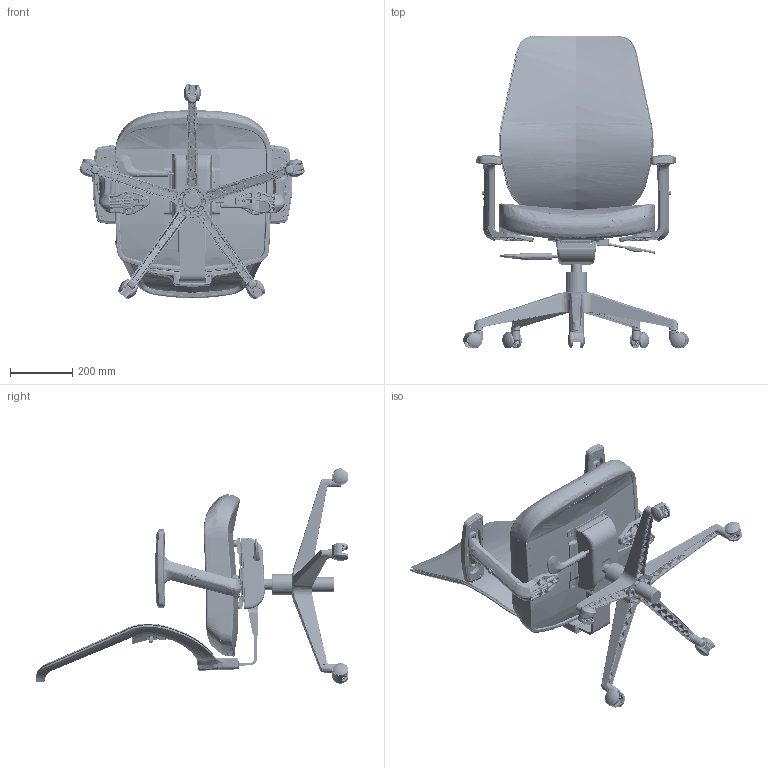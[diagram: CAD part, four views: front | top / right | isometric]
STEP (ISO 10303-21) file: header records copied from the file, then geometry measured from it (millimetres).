
FILE_DESCRIPTION((''),'2;1');
FILE_NAME('NERO_2_WD_MEC_BLK_CHAIR_0508_ASM','2024-08-05T',('shailendra.shah'),(''),'PRO/ENGINEER BY PARAMETRIC TECHNOLOGY CORPORATION, 2016100','PRO/ENGINEER BY PARAMETRIC TECHNOLOGY CORPORATION, 2016100','');
FILE_SCHEMA(('CONFIG_CONTROL_DESIGN'));
Length unit declared in the file: millimetre
Products named in the file (97): MANIFOLD_SOLID_BREP-15809_AF0_1; MANIFOLD_SOLID_BREP-15807_AF0__; MANIFOLD_SOLID_BREP-15805_AF0_1; MANIFOLD_SOLID_BREP-15803_AF0_1; ASM0010_AF0_ASM_4__ASM_1_ASM_1__ASM; ASM0009_AF0_ASM_4__ASM_2_ASM_1__ASM; MANIFOLD_SOLID_BREP_1901__1_1_1; MANIFOLD_SOLID_BREP_2218__1_1_1; _ASM0008_1__ASM_2_ASM_1_ASM_1_A_ASM; ASM0008_AF0_ASM_1__ASM_4_ASM_1__ASM; MANIFOLD_SOLID_BREP-15759_2__1_; ASM0010_ASM_4__ASM_2_1_1_1; ARM_ASM_3__1_1_1_1; MANIFOLD_SOLID_BREP-3_AF0_1__1_; MANIFOLD_SOLID_BREP-1_AF0_1__1_; A1_ASM_4__ASM_1_ASM_1_ASM_1_ASM_ASM; BASE_ASSLY_ASM_4__ASM_4_ASM_1_A_ASM; ASM0087__ASM_1_ASM_1_ASM_1_ASM__ASM; PRT0001_5__1_1_1_1; BREP_WITH_VOIDS_364073_1_1_1; MANIFOLD_SOLID_BREP_364190_1_1_; PRT0002_15__2_ASM_1_ASM_1_ASM_1_ASM; CASTOR_ASM_17__ASM_1_ASM_1_ASM__ASM; QUEST_SEAT_WOOD_1_1_1_1; FLUENCE_FOAM_THICKNESSINC_1_1_1; MANIFOLD_SOLID_BREP-1875_1__4_1; _3D_CAD_BLOCK_--_NERO_C_1_1_1_1; 3D_CAD_BLOCK_--_NERO_CHR__ASM_3_ASM; MANIFOLD_SOLID_BREP_1428_1_1__1; MANIFOLD_SOLID_BREP_2309_1_1__1; MANIFOLD_SOLID_BREP_4204_1_1__1; MANIFOLD_SOLID_BREP_5673_1_1__1; PRT0453_1_1__1_1_1_1; PRT0011_1_ASM_1_ASM_1__ASM_5_AS_ASM; FINAL_LOTUS_WITHLOGO_ASM_ASM_1__ASM; NERO_CHAIR_-_UPGRADED_VER_ASM_2_ASM; LUMBAR_SUPP_NERO_020624___1_1_1; PRT0452___1_1_1_1; LUMBAR_EXISTING_NERO__ASM_2_ASM_ASM; NERO_CHR_UPGRADED_260724_ASM_7__ASM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
Assembly tree (101 placements, depth 17):
  NERO_2_WD_MEC_BLK_CHAIR_0508_ASM
    A1_ASM_4_ASM
      FLUENCE_2_VERSION_26072-1345288_ASM
        ASM0086_ASM_1_ASM_1_ASM_1_ASM
          FLUENCE_2_VERSION_260720-274140_ASM
            ASM0087__ASM_1_ASM_1_ASM_1_ASM__ASM
              BASE_ASSLY_ASM_4__ASM_4_ASM_1_A_ASM
                ASM0008_AF0_ASM_1__ASM_4_ASM_1__ASM
                  ASM0009_AF0_ASM_4__ASM_2_ASM_1__ASM
                  _ASM0008_1__ASM_2_ASM_1_ASM_1_A_ASM
                MANIFOLD_SOLID_BREP-15759_2__1_
                ASM0010_ASM_4__ASM_2_1_1_1
                ARM_ASM_3__1_1_1_1
                A1_ASM_4__ASM_1_ASM_1_ASM_1_ASM_ASM
                  MANIFOLD_SOLID_BREP-3_AF0_1__1_
                  MANIFOLD_SOLID_BREP-1_AF0_1__1_
            CASTOR_ASM_17__ASM_1_ASM_1_ASM__ASM  x5
              PRT0001_5__1_1_1_1
              PRT0002_15__2_ASM_1_ASM_1_ASM_1_ASM
                BREP_WITH_VOIDS_364073_1_1_1
                MANIFOLD_SOLID_BREP_364190_1_1_
            QUEST_SEAT_WOOD_1_1_1_1
            FLUENCE_FOAM_THICKNESSINC_1_1_1
            NERO_CHR_UPGRADED_260724_ASM_7__ASM
              NERO_CHAIR_-_UPGRADED_VER_ASM_2_ASM
                3D_CAD_BLOCK_--_NERO_CHR__ASM_3_ASM
                  MANIFOLD_SOLID_BREP-1875_1__4_1
                  _3D_CAD_BLOCK_--_NERO_C_1_1_1_1
                FINAL_LOTUS_WITHLOGO_ASM_ASM_1__ASM
                  PRT0011_1_ASM_1_ASM_1__ASM_5_AS_ASM
              LUMBAR_EXISTING_NERO__ASM_2_ASM_ASM
                LUMBAR_SUPP_NERO_020624___1_1_1
                PRT0452___1_1_1_1
            ARM_ASSEMBLY_ASM_2_ASM_1_ASM_1__ASM
              MANIFOLD_SOLID_BREP-15_1_1_1_1
              MANIFOLD_SOLID_BREP-13_1_1_1_1
              MANIFOLD_SOLID_BREP-11_1_1_1_1
              MANIFOLD_SOLID_BREP-7_1_1_1_1
              6_1_1_1_1
            PRT0550_1_1_1_1
            PRT0551_1_1_1_1
            PRT0552_1_1_1_1
            PRT0553_1_1_1_1
            PRT0554_1_1_1_1
          BACKFRAME_ASM_1_ASM_1_ASM_1
        ASM0086_ASM_1_ASM_1
      WITH_BACK_MESH_4
      ASD1_ASM_1_ASM
        ASM0086_ASM_1_ASM
          ASM0087_ASM_1_ASM
            B1_3__1_1
            _3D_CAD_BLOCK_--_NERO_C_1_1
    T727KSA-BP_1__ASM_1_ASM_ASM_ASM
      T727KSA-BP_1__ASM_1_ASM_ASM_1_ASM
        T727KSA-BP_1__ASM_1_ASM_1_ASM_1_ASM
          T727KSA-BP_ASM_ASM_1_ASM_1_ASM__ASM
            T727KSA-BP_ASM_ASM_ASM_1_ASM_1__ASM
              ASM0086_ASM
                ASM0087_ASM
                  ASM0008_ASM_1_ASM_1_ASM
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Bounding box: 727.04 x 1006.91 x 693.28 mm (x, y, z)
Volume: 849132 mm3; surface area: 3845162.7 mm2
Topology: 16 solids, 13571 shells, 18937 faces, 83116 edges, 77429 vertices
Faces by surface type: bspline 8385, cylinder 3930, plane 3923, extrusion 966, torus 890, cone 460, sphere 363, revolution 20
Entity records: 1422792 total; most frequent: CARTESIAN_POINT 966494, ORIENTED_EDGE 86293, EDGE_CURVE 71708, VERTEX_POINT 66414, B_SPLINE_CURVE_WITH_KNOTS 49042, DIRECTION 48247, EDGE_LOOP 17418, VECTOR 17331
